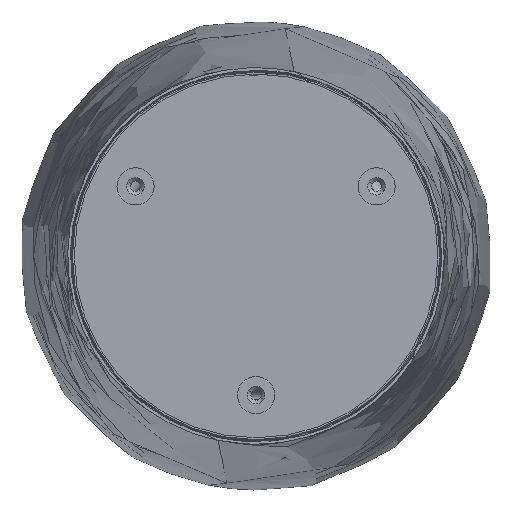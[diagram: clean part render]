
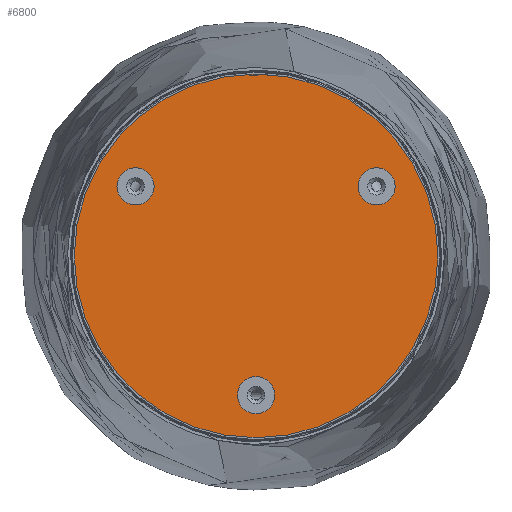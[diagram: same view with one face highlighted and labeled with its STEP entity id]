
A CAD part, front view. The second image highlights one B-rep face of the part: STEP entity #6800.
In plain terms, the highlighted planar face has unit normal (0, -1, 0).
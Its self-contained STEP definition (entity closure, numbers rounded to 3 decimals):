
#160 = CIRCLE ( 'NONE', #3010, 98. ) ;
#360 = CARTESIAN_POINT ( 'NONE',  ( -22.738, -46.897, 37.5 ) ) ;
#370 = CARTESIAN_POINT ( 'NONE',  ( -22.738, -46.897, 27.5 ) ) ;
#484 = CARTESIAN_POINT ( 'NONE',  ( -22.738, -46.897, 47.5 ) ) ;
#546 = DIRECTION ( 'NONE',  ( 0., 0., 1. ) ) ;
#553 = DIRECTION ( 'NONE',  ( 0., 1., 0. ) ) ;
#768 = CARTESIAN_POINT ( 'NONE',  ( -87.69, -46.897, 0. ) ) ;
#819 = AXIS2_PLACEMENT_3D ( 'NONE', #4321, #6557, #3507 ) ;
#894 = VERTEX_POINT ( 'NONE', #6093 ) ;
#970 = CARTESIAN_POINT ( 'NONE',  ( -87.69, -46.897, -75. ) ) ;
#994 = VERTEX_POINT ( 'NONE', #484 ) ;
#1190 = VERTEX_POINT ( 'NONE', #370 ) ;
#1509 = DIRECTION ( 'NONE',  ( 0., 1., 0. ) ) ;
#1694 = EDGE_CURVE ( 'NONE', #1190, #994, #1715, .T. ) ;
#1715 = CIRCLE ( 'NONE', #9157, 10. ) ;
#1819 = CIRCLE ( 'NONE', #3670, 98. ) ;
#1953 = CIRCLE ( 'NONE', #2790, 10. ) ;
#2186 = CIRCLE ( 'NONE', #4327, 10. ) ;
#2205 = DIRECTION ( 'NONE',  ( 0., 0., 1. ) ) ;
#2313 = VERTEX_POINT ( 'NONE', #2595 ) ;
#2417 = DIRECTION ( 'NONE',  ( 0., 1., 0. ) ) ;
#2595 = CARTESIAN_POINT ( 'NONE',  ( -87.69, -46.897, -65. ) ) ;
#2689 = FACE_OUTER_BOUND ( 'NONE', #8880, .T. ) ;
#2750 = EDGE_LOOP ( 'NONE', ( #3994, #6087 ) ) ;
#2790 = AXIS2_PLACEMENT_3D ( 'NONE', #9999, #553, #3851 ) ;
#2933 = EDGE_CURVE ( 'NONE', #994, #1190, #2186, .T. ) ;
#2938 = DIRECTION ( 'NONE',  ( 0., 1., 0. ) ) ;
#3010 = AXIS2_PLACEMENT_3D ( 'NONE', #768, #1509, #9447 ) ;
#3089 = CARTESIAN_POINT ( 'NONE',  ( -87.69, -46.897, 98. ) ) ;
#3507 = DIRECTION ( 'NONE',  ( 0., 0., 1. ) ) ;
#3537 = FACE_BOUND ( 'NONE', #9915, .T. ) ;
#3617 = CARTESIAN_POINT ( 'NONE',  ( -152.642, -46.897, 37.5 ) ) ;
#3658 = AXIS2_PLACEMENT_3D ( 'NONE', #3617, #2938, #2205 ) ;
#3670 = AXIS2_PLACEMENT_3D ( 'NONE', #8138, #7251, #8041 ) ;
#3851 = DIRECTION ( 'NONE',  ( 0., 0., 1. ) ) ;
#3994 = ORIENTED_EDGE ( 'NONE', *, *, #5697, .T. ) ;
#4162 = DIRECTION ( 'NONE',  ( 0., 0., 1. ) ) ;
#4321 = CARTESIAN_POINT ( 'NONE',  ( -87.69, -46.897, -75. ) ) ;
#4327 = AXIS2_PLACEMENT_3D ( 'NONE', #360, #4990, #8962 ) ;
#4330 = AXIS2_PLACEMENT_3D ( 'NONE', #970, #8092, #4162 ) ;
#4658 = DIRECTION ( 'NONE',  ( 0., 1., 0. ) ) ;
#4812 = CARTESIAN_POINT ( 'NONE',  ( -152.642, -46.897, 47.5 ) ) ;
#4946 = CARTESIAN_POINT ( 'NONE',  ( -22.738, -46.897, 37.5 ) ) ;
#4990 = DIRECTION ( 'NONE',  ( 0., 1., 0. ) ) ;
#5475 = CARTESIAN_POINT ( 'NONE',  ( -87.69, -46.897, 0. ) ) ;
#5616 = DIRECTION ( 'NONE',  ( 0., 0., 1. ) ) ;
#5697 = EDGE_CURVE ( 'NONE', #6617, #9596, #7951, .T. ) ;
#5847 = PLANE ( 'NONE',  #7978 ) ;
#5897 = ORIENTED_EDGE ( 'NONE', *, *, #8297, .F. ) ;
#5939 = FACE_BOUND ( 'NONE', #7647, .T. ) ;
#5957 = EDGE_CURVE ( 'NONE', #9733, #2313, #7636, .T. ) ;
#6087 = ORIENTED_EDGE ( 'NONE', *, *, #9948, .T. ) ;
#6093 = CARTESIAN_POINT ( 'NONE',  ( -87.69, -46.897, -98. ) ) ;
#6232 = EDGE_CURVE ( 'NONE', #2313, #9733, #7140, .T. ) ;
#6557 = DIRECTION ( 'NONE',  ( 0., 1., 0. ) ) ;
#6617 = VERTEX_POINT ( 'NONE', #4812 ) ;
#6626 = FACE_BOUND ( 'NONE', #2750, .T. ) ;
#6706 = ORIENTED_EDGE ( 'NONE', *, *, #6232, .T. ) ;
#6800 = ADVANCED_FACE ( 'NONE', ( #6626, #3537, #5939, #2689 ), #5847, .F. ) ;
#7098 = CARTESIAN_POINT ( 'NONE',  ( -87.69, -46.897, -85. ) ) ;
#7140 = CIRCLE ( 'NONE', #4330, 10. ) ;
#7251 = DIRECTION ( 'NONE',  ( 0., 1., 0. ) ) ;
#7636 = CIRCLE ( 'NONE', #819, 10. ) ;
#7647 = EDGE_LOOP ( 'NONE', ( #6706, #8268 ) ) ;
#7951 = CIRCLE ( 'NONE', #3658, 10. ) ;
#7978 = AXIS2_PLACEMENT_3D ( 'NONE', #5475, #4658, #546 ) ;
#8041 = DIRECTION ( 'NONE',  ( 0., 0., 1. ) ) ;
#8092 = DIRECTION ( 'NONE',  ( 0., 1., 0. ) ) ;
#8108 = CARTESIAN_POINT ( 'NONE',  ( -152.642, -46.897, 27.5 ) ) ;
#8138 = CARTESIAN_POINT ( 'NONE',  ( -87.69, -46.897, 0. ) ) ;
#8268 = ORIENTED_EDGE ( 'NONE', *, *, #5957, .T. ) ;
#8297 = EDGE_CURVE ( 'NONE', #894, #9066, #160, .T. ) ;
#8442 = EDGE_CURVE ( 'NONE', #9066, #894, #1819, .T. ) ;
#8695 = ORIENTED_EDGE ( 'NONE', *, *, #8442, .F. ) ;
#8880 = EDGE_LOOP ( 'NONE', ( #5897, #8695 ) ) ;
#8962 = DIRECTION ( 'NONE',  ( 0., 0., 1. ) ) ;
#9066 = VERTEX_POINT ( 'NONE', #3089 ) ;
#9157 = AXIS2_PLACEMENT_3D ( 'NONE', #4946, #2417, #5616 ) ;
#9447 = DIRECTION ( 'NONE',  ( 0., 0., 1. ) ) ;
#9596 = VERTEX_POINT ( 'NONE', #8108 ) ;
#9733 = VERTEX_POINT ( 'NONE', #7098 ) ;
#9862 = ORIENTED_EDGE ( 'NONE', *, *, #2933, .T. ) ;
#9915 = EDGE_LOOP ( 'NONE', ( #9862, #9927 ) ) ;
#9927 = ORIENTED_EDGE ( 'NONE', *, *, #1694, .T. ) ;
#9948 = EDGE_CURVE ( 'NONE', #9596, #6617, #1953, .T. ) ;
#9999 = CARTESIAN_POINT ( 'NONE',  ( -152.642, -46.897, 37.5 ) ) ;
